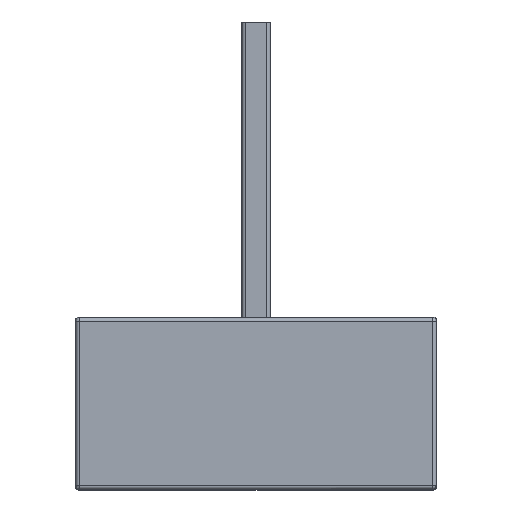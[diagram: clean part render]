
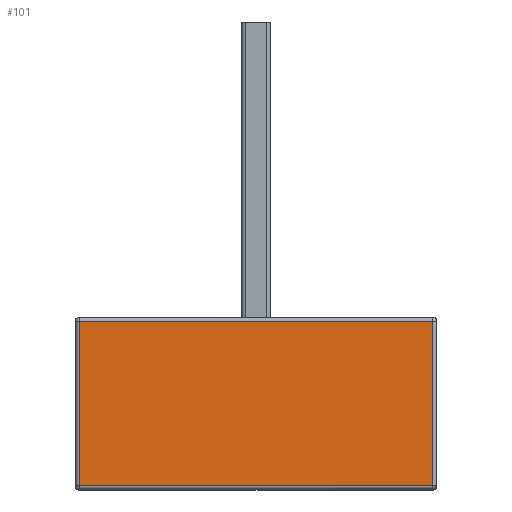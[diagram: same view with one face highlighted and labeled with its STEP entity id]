
A CAD part, left-side view. The second image highlights one B-rep face of the part: STEP entity #101.
In plain terms, the highlighted planar face has unit normal (-1, 0, 0).
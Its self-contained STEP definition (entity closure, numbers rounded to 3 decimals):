
#101=ADVANCED_FACE('',(#425),#5283,.T.);
#425=FACE_OUTER_BOUND('',#750,.T.);
#750=EDGE_LOOP('',(#1194,#1195,#1196,#1197));
#1194=ORIENTED_EDGE('',*,*,#2937,.T.);
#1195=ORIENTED_EDGE('',*,*,#2938,.T.);
#1196=ORIENTED_EDGE('',*,*,#2939,.T.);
#1197=ORIENTED_EDGE('',*,*,#2940,.T.);
#2937=EDGE_CURVE('',#4708,#4709,#3872,.T.);
#2938=EDGE_CURVE('',#4709,#4710,#3873,.T.);
#2939=EDGE_CURVE('',#4710,#4711,#3874,.T.);
#2940=EDGE_CURVE('',#4711,#4708,#3875,.T.);
#3872=B_SPLINE_CURVE_WITH_KNOTS('',1,(#7936,#7937),.UNSPECIFIED.,.F.,.F.,
(2,2),(0.,46.286),.UNSPECIFIED.);
#3873=B_SPLINE_CURVE_WITH_KNOTS('',1,(#7938,#7939),.UNSPECIFIED.,.F.,.F.,
(2,2),(0.,99.486),.UNSPECIFIED.);
#3874=B_SPLINE_CURVE_WITH_KNOTS('',1,(#7940,#7941),.UNSPECIFIED.,.F.,.F.,
(2,2),(0.,46.286),.UNSPECIFIED.);
#3875=B_SPLINE_CURVE_WITH_KNOTS('',1,(#7942,#7943),.UNSPECIFIED.,.F.,.F.,
(2,2),(0.,99.486),.UNSPECIFIED.);
#4708=VERTEX_POINT('',#7218);
#4709=VERTEX_POINT('',#7219);
#4710=VERTEX_POINT('',#7220);
#4711=VERTEX_POINT('',#7221);
#5283=PLANE('',#5586);
#5586=AXIS2_PLACEMENT_3D('',#6523,#5898,$);
#5898=DIRECTION('',(-1.,0.,0.));
#6523=CARTESIAN_POINT('',(-72.469,60.301,19.502));
#7218=CARTESIAN_POINT('',(-72.469,49.743,14.264));
#7219=CARTESIAN_POINT('',(-72.469,49.743,-32.021));
#7220=CARTESIAN_POINT('',(-72.469,-49.743,-32.021));
#7221=CARTESIAN_POINT('',(-72.469,-49.743,14.264));
#7936=CARTESIAN_POINT('',(-72.469,49.743,14.264));
#7937=CARTESIAN_POINT('',(-72.469,49.743,-32.021));
#7938=CARTESIAN_POINT('',(-72.469,49.743,-32.021));
#7939=CARTESIAN_POINT('',(-72.469,-49.743,-32.021));
#7940=CARTESIAN_POINT('',(-72.469,-49.743,-32.021));
#7941=CARTESIAN_POINT('',(-72.469,-49.743,14.264));
#7942=CARTESIAN_POINT('',(-72.469,-49.743,14.264));
#7943=CARTESIAN_POINT('',(-72.469,49.743,14.264));
